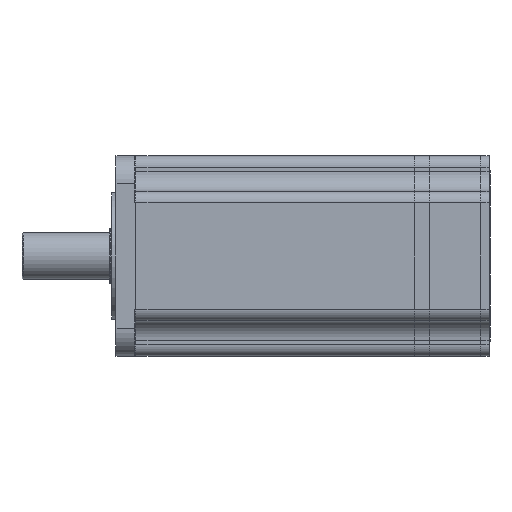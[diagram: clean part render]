
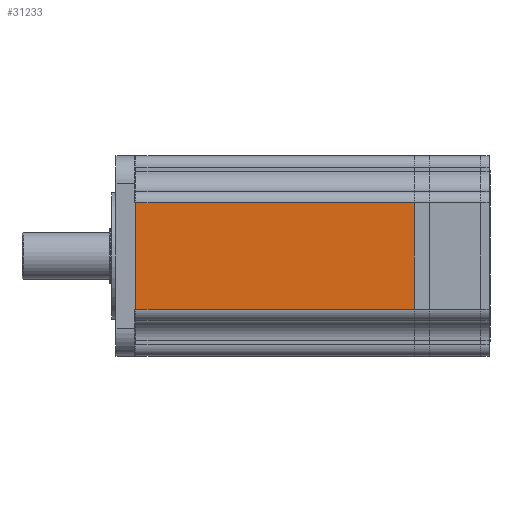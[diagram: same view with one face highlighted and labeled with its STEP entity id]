
A CAD part, front view. The second image highlights one B-rep face of the part: STEP entity #31233.
In plain terms, the highlighted planar face has unit normal (0, -1, 0).
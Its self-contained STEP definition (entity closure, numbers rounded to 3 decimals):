
#943 = AXIS2_PLACEMENT_3D ( 'NONE', #42817, #25336, #47940 ) ;
#2587 = VECTOR ( 'NONE', #3077, 1000. ) ;
#2841 = ORIENTED_EDGE ( 'NONE', *, *, #40225, .T. ) ;
#3077 = DIRECTION ( 'NONE',  ( -1., 0., 0. ) ) ;
#4576 = VECTOR ( 'NONE', #28803, 1000. ) ;
#5836 = VERTEX_POINT ( 'NONE', #45767 ) ;
#6146 = LINE ( 'NONE', #11929, #2587 ) ;
#8525 = VERTEX_POINT ( 'NONE', #50054 ) ;
#10573 = FACE_OUTER_BOUND ( 'NONE', #48236, .T. ) ;
#11929 = CARTESIAN_POINT ( 'NONE',  ( 250., -90., 48. ) ) ;
#15360 = VERTEX_POINT ( 'NONE', #54979 ) ;
#16416 = DIRECTION ( 'NONE',  ( 0., 0., -1. ) ) ;
#17108 = VECTOR ( 'NONE', #25410, 1000. ) ;
#18680 = EDGE_CURVE ( 'NONE', #5836, #8525, #35447, .T. ) ;
#19180 = EDGE_CURVE ( 'NONE', #15360, #5836, #51587, .T. ) ;
#25336 = DIRECTION ( 'NONE',  ( 0., 1., 0. ) ) ;
#25410 = DIRECTION ( 'NONE',  ( 0., 0., -1. ) ) ;
#28803 = DIRECTION ( 'NONE',  ( -1., 0., 0. ) ) ;
#31233 = ADVANCED_FACE ( 'NONE', ( #10573 ), #57230, .F. ) ;
#32577 = ORIENTED_EDGE ( 'NONE', *, *, #43815, .T. ) ;
#32970 = CARTESIAN_POINT ( 'NONE',  ( 250., -90., -48. ) ) ;
#33223 = LINE ( 'NONE', #56368, #56436 ) ;
#35447 = LINE ( 'NONE', #32970, #4576 ) ;
#38700 = VERTEX_POINT ( 'NONE', #42091 ) ;
#40225 = EDGE_CURVE ( 'NONE', #38700, #8525, #33223, .T. ) ;
#42091 = CARTESIAN_POINT ( 'NONE',  ( 0., -90., 48. ) ) ;
#42817 = CARTESIAN_POINT ( 'NONE',  ( 250., -90., -48. ) ) ;
#43815 = EDGE_CURVE ( 'NONE', #15360, #38700, #6146, .T. ) ;
#45767 = CARTESIAN_POINT ( 'NONE',  ( 250., -90., -48. ) ) ;
#47940 = DIRECTION ( 'NONE',  ( 0., 0., 1. ) ) ;
#48236 = EDGE_LOOP ( 'NONE', ( #2841, #53455, #48996, #32577 ) ) ;
#48996 = ORIENTED_EDGE ( 'NONE', *, *, #19180, .F. ) ;
#50054 = CARTESIAN_POINT ( 'NONE',  ( 0., -90., -48. ) ) ;
#51587 = LINE ( 'NONE', #52555, #17108 ) ;
#52555 = CARTESIAN_POINT ( 'NONE',  ( 250., -90., -48. ) ) ;
#53455 = ORIENTED_EDGE ( 'NONE', *, *, #18680, .F. ) ;
#54979 = CARTESIAN_POINT ( 'NONE',  ( 250., -90., 48. ) ) ;
#56368 = CARTESIAN_POINT ( 'NONE',  ( 0., -90., -48. ) ) ;
#56436 = VECTOR ( 'NONE', #16416, 1000. ) ;
#57230 = PLANE ( 'NONE',  #943 ) ;
